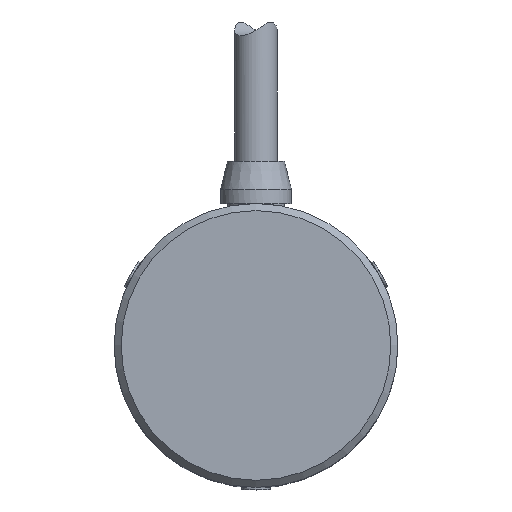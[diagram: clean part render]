
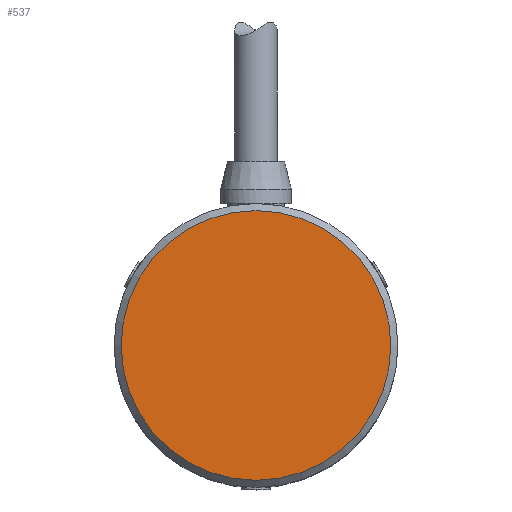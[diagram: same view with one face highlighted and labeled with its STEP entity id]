
A CAD part, top view. The second image highlights one B-rep face of the part: STEP entity #537.
In plain terms, the highlighted planar face has unit normal (0, 0, 1).
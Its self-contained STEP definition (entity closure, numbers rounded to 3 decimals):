
#537=ADVANCED_FACE('',(#864),#865,.T.);
#864=FACE_OUTER_BOUND('',#1314,.T.);
#865=PLANE('',#1315);
#1314=EDGE_LOOP('',(#1736));
#1315=AXIS2_PLACEMENT_3D('',#1737,#1738,#1739);
#1736=ORIENTED_EDGE('',*,*,#2221,.T.);
#1737=CARTESIAN_POINT('',(0.,0.,21.0));
#1738=DIRECTION('',(0.,0.,1.0));
#1739=DIRECTION('',(-1.0,0.,0.));
#2221=EDGE_CURVE('',#2507,#2507,#2508,.T.);
#2507=VERTEX_POINT('',#3094);
#2508=CIRCLE('',#3095,9.5);
#3094=CARTESIAN_POINT('',(-9.5,0.,21.0));
#3095=AXIS2_PLACEMENT_3D('',#3704,#3705,#3706);
#3704=CARTESIAN_POINT('',(0.,0.,21.0));
#3705=DIRECTION('',(0.,0.,1.0));
#3706=DIRECTION('',(-1.0,0.,0.));
